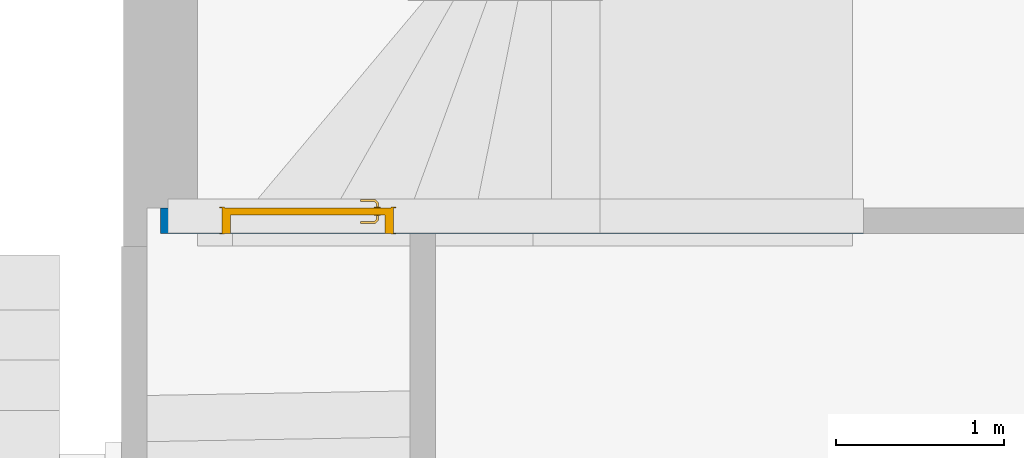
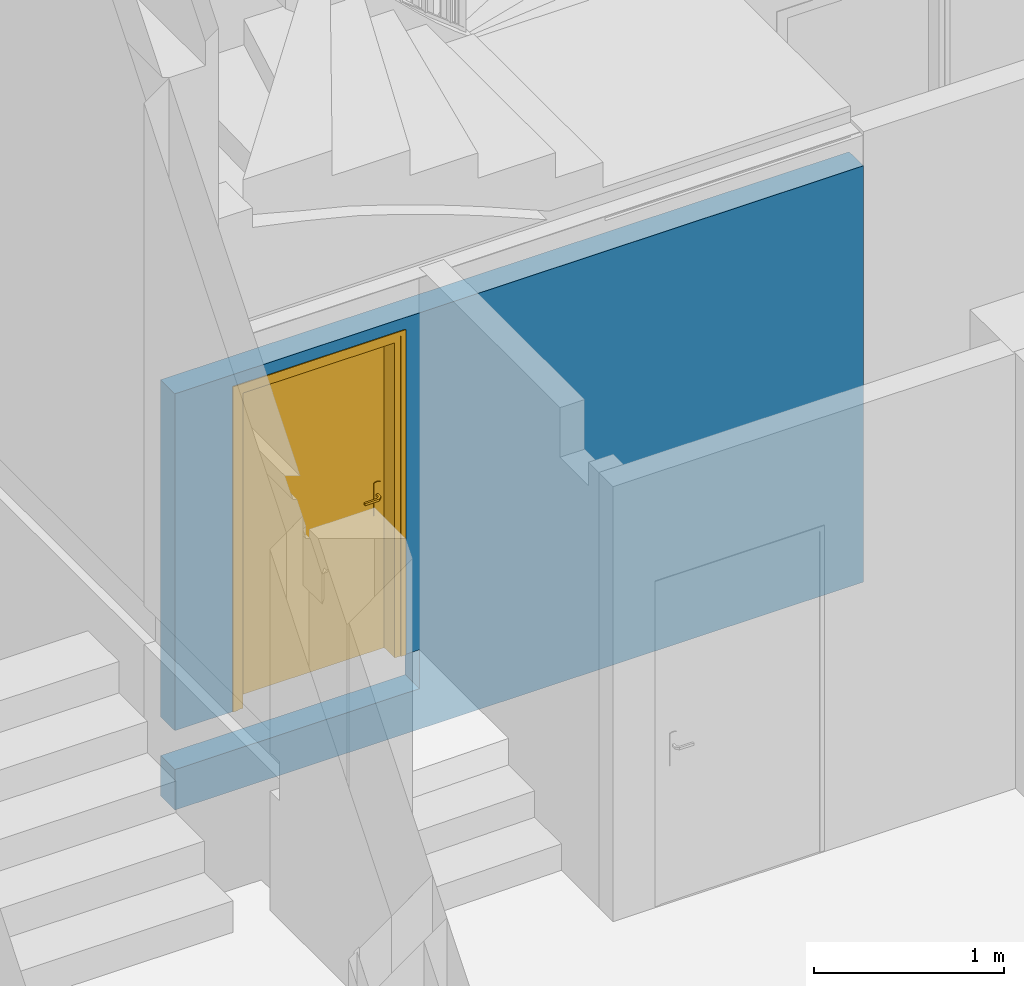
# One storey, part 12 of 39: 1 door, 1 wall, 1 opening.
"""IFC4 building model written with IfcOpenShell, lengths in metres."""

from ifc_helpers import new_model, entity, si_unit, converted_unit, derived_unit, direction, frame, origin, place, context, subcontext, project, spatial, indexed_curve, outline, extrude, polygons, source, transform, mapped, material, material_list, layer, layer_set, constituent, constituent_set, type_object, type_shapes, element, fill, save


model = new_model("IFC4")

# Units and contexts
model_context = context("Model", 3, precision=1e-05, world=origin(), true_north=direction((6.12303176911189e-17, 1.0)))
body_context = subcontext(model_context, "Body", "Model", "MODEL_VIEW")
ifc_project = project(units=[si_unit("LENGTHUNIT", "METRE"), si_unit("AREAUNIT", "SQUARE_METRE"), si_unit("VOLUMEUNIT", "CUBIC_METRE"), converted_unit("PLANEANGLEUNIT", "DEGREE", entity("IfcRatioMeasure", 0.0174532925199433), si_unit("PLANEANGLEUNIT", "RADIAN"), dimensions=[0, 0, 0, 0, 0, 0, 0]), si_unit("MASSUNIT", "GRAM", prefix="KILO"), derived_unit("MASSDENSITYUNIT", [(si_unit("MASSUNIT", "GRAM", prefix="KILO"), 1), (si_unit("LENGTHUNIT", "METRE"), -3)]), derived_unit("MOMENTOFINERTIAUNIT", [(si_unit("LENGTHUNIT", "METRE"), 4)]), si_unit("TIMEUNIT", "SECOND"), si_unit("FREQUENCYUNIT", "HERTZ"), si_unit("THERMODYNAMICTEMPERATUREUNIT", "DEGREE_CELSIUS"), derived_unit("THERMALTRANSMITTANCEUNIT", [(si_unit("MASSUNIT", "GRAM", prefix="KILO"), 1), (si_unit("THERMODYNAMICTEMPERATUREUNIT", "KELVIN"), -1), (si_unit("TIMEUNIT", "SECOND"), -3)]), derived_unit("VOLUMETRICFLOWRATEUNIT", [(si_unit("LENGTHUNIT", "METRE"), 3), (si_unit("TIMEUNIT", "SECOND"), -1)]), si_unit("ELECTRICCURRENTUNIT", "AMPERE"), si_unit("ELECTRICVOLTAGEUNIT", "VOLT"), si_unit("POWERUNIT", "WATT"), si_unit("FORCEUNIT", "NEWTON", prefix="KILO"), si_unit("ILLUMINANCEUNIT", "LUX"), si_unit("LUMINOUSFLUXUNIT", "LUMEN"), si_unit("LUMINOUSINTENSITYUNIT", "CANDELA"), derived_unit("USERDEFINED", [(si_unit("MASSUNIT", "GRAM", prefix="KILO"), -1), (si_unit("LENGTHUNIT", "METRE"), -2), (si_unit("TIMEUNIT", "SECOND"), 3), (si_unit("LUMINOUSFLUXUNIT", "LUMEN"), 1)]), derived_unit("LINEARVELOCITYUNIT", [(si_unit("LENGTHUNIT", "METRE"), 1), (si_unit("TIMEUNIT", "SECOND"), -1)]), si_unit("PRESSUREUNIT", "PASCAL"), derived_unit("USERDEFINED", [(si_unit("LENGTHUNIT", "METRE"), -2), (si_unit("MASSUNIT", "GRAM", prefix="KILO"), 1), (si_unit("TIMEUNIT", "SECOND"), -2)]), derived_unit("LINEARFORCEUNIT", [(si_unit("MASSUNIT", "GRAM", prefix="KILO"), 1), (si_unit("LENGTHUNIT", "METRE"), 1), (si_unit("TIMEUNIT", "SECOND"), -2), (si_unit("LENGTHUNIT", "METRE"), -1)]), derived_unit("PLANARFORCEUNIT", [(si_unit("MASSUNIT", "GRAM", prefix="KILO"), 1), (si_unit("LENGTHUNIT", "METRE"), 1), (si_unit("TIMEUNIT", "SECOND"), -2), (si_unit("LENGTHUNIT", "METRE"), -2)])], contexts=[model_context])

# Site, building, storey
site_placement = place(None, origin())
site = spatial("IfcSite", under=ifc_project, at=site_placement, Name="Default", CompositionType="ELEMENT")
building_placement = place(site_placement, origin())
building = spatial("IfcBuilding", under=site, at=building_placement, Name="HOTEL CONSULAIRE BOULOGNE SUR MER", CompositionType="ELEMENT")
storey_placement = place(building_placement, frame((0.0, 0.0, -5.02343668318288)))
storey = spatial("IfcBuildingStorey", under=building, at=storey_placement, Name="SS3", CompositionType="ELEMENT", Elevation=-5.02343668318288)

# Wall, opening, door
ifc_material_1 = material(Name="Mur par défaut", Category="Divers")
ifc_layer = layer(ifc_material_1, 0.15, Name="Mur par défaut", Category="Divers")
ifc_layer_set = layer_set([ifc_layer], Name="Mur de base:Générique - Int. 150 mm")
wall_type = type_object("IfcWallType", Name="Mur de base:Générique - Int. 150 mm", PredefinedType="NOTDEFINED", material=ifc_layer_set)
wall_placement = place(storey_placement, frame((-1.19442350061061, -13.743909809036, -0.43), z_axis=(0.0, 0.0, 1.0), x_axis=(-1.0, 0.0, 0.0)))
wall = element("IfcWall", 1, at=wall_placement, inside=storey, type_object=wall_type, material=ifc_layer_set, Name="Mur de base:Générique - Int. 150 mm", ObjectType="Mur de base:Générique - Int. 150 mm", PredefinedType="NOTDEFINED", context=body_context, shape_type="Tessellation", body=[
    polygons([(4.18534967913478, 0.0750000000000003, 2.675), (4.18534967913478, -0.0750000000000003, 2.675), (4.18534967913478, -0.0750000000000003, 0.51), (4.18534967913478, 0.0750000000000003, 0.51), (2.69873543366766, -0.0749999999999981, 0.51), (2.69873543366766, 0.0750000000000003, 0.51), (2.79956506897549, 0.0750000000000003, 0.51), (2.79956506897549, -0.0750000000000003, 0.51), (8.12349632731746e-16, -0.0750000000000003, 0.0), (4.18534967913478, -0.0750000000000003, 0.0), (4.18534967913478, -0.0750000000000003, 0.26), (2.69873543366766, -0.0750000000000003, 0.26), (2.79956506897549, -0.0750000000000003, 2.58500000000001), (3.81956506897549, -0.0750000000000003, 2.58500000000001), (3.81956506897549, -0.0750000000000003, 0.51), (2.7091606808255e-16, -0.0750000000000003, 2.675), (4.18534967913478, 0.0750000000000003, 0.0), (2.69873543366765, 0.0750000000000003, 0.0), (2.54873543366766, 0.0750000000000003, 0.0), (2.6721109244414e-16, 0.0750000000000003, 0.0), (8.08644657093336e-16, 0.0750000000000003, 2.675), (2.54873543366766, 0.0750000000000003, 2.675), (2.69873543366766, 0.0750000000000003, 2.675), (3.81956506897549, 0.0750000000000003, 0.51), (3.81956506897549, 0.0750000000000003, 2.58500000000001), (2.79956506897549, 0.0750000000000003, 2.58500000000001), (2.69873543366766, 0.0750000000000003, 0.26), (4.18534967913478, 0.0750000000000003, 0.26), (2.77348197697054e-16, 0.0722106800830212, 2.675)], [[[2, 3, 4, 1]], [[11, 10, 17, 28]], [[7, 26, 13, 8]], [[6, 5, 12, 27]], [[5, 6, 7, 8]], [[10, 9, 20, 19, 18, 17]], [[26, 25, 14, 13]], [[24, 4, 3, 15]], [[5, 8, 13, 14, 15, 3, 2, 16, 9, 10, 11, 12]], [[18, 19, 20, 21, 22, 23, 1, 4, 24, 25, 26, 7, 6, 27, 28, 17]], [[29, 16, 2, 1, 23, 22, 21]], [[11, 28, 27, 12]], [[9, 16, 29, 21, 20]], [[25, 24, 15, 14]]], closed=True),
])
opening_placement = place(wall_placement, frame((3.81956506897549, 0.0749999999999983, 0.51)))
opening = element("IfcOpeningElement", 2, at=opening_placement, cuts=wall, Name="Int. Simple:PP0.95x2.04 2:1", ObjectType="Opening", PredefinedType="OPENING", context=body_context, shape_type="SweptSolid", body=[
    extrude(outline(indexed_curve([(0.0, -2.2751631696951e-30), (2.07500000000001, -2.2751631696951e-30), (2.07500000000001, 1.02), (0.0, 1.02), (0.0, -2.2751631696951e-30)], self_intersect=False)), frame((0.0, 0.0, 0.0), z_axis=(0.0, -1.0, 0.0), x_axis=(0.0, 0.0, 1.0)), (0.0, 0.0, 1.0), 0.15),
])
ifc_material_2 = material(Name="Finition Peinture - Blanc satiné", Category="Peinture")
ifc_constituent_1 = constituent(ifc_material_2, Name="Finition Peinture - Blanc satiné", Category="Matériaux")
ifc_material_3 = material(Name="Bois - Panneau de porte", Category="Bois")
ifc_constituent_2 = constituent(ifc_material_3, Name="Bois - Panneau de porte", Category="Matériaux")
ifc_material_4 = material(Name="Bois - Cadre de porte", Category="Bois")
ifc_constituent_3 = constituent(ifc_material_4, Name="Bois - Cadre de porte", Category="Matériaux")
ifc_constituent_set = constituent_set(constituents=[ifc_constituent_1, ifc_constituent_2, ifc_constituent_3], Name="MaterialConstituentSet")
ifc_material_list = material_list([ifc_material_4, ifc_material_4, ifc_material_2, ifc_material_3])
door_type = type_object("IfcDoorType", Name="Int. Simple:PP0.95x2.04 2", OperationType="NOTDEFINED", PredefinedType="DOOR", material=ifc_material_list)
shared_shape = source(origin(), body_context, "Body", "Tessellation", [
    polygons([(0.0750000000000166, -0.00500000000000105, 0.870000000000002), (0.0846472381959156, -0.00500000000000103, 0.866003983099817), (0.0950000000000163, -0.00500000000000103, 0.86464101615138), (0.105352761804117, -0.00500000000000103, 0.866003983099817), (0.115000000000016, -0.00500000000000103, 0.870000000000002), (0.115000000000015, -0.00500000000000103, 1.08), (0.105352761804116, -0.00500000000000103, 1.08399601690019), (0.0950000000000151, -0.00500000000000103, 1.08535898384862), (0.0846472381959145, -0.00500000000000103, 1.08399601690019), (0.0750000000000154, -0.00500000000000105, 1.08), (0.0750000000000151, -1.04902753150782e-15, 0.870000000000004), (0.0750000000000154, -1.04902753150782e-15, 1.08), (0.0846472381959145, -1.04902753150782e-15, 1.08399601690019), (0.0950000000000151, -1.04056763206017e-15, 1.08535898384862), (0.105352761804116, -1.04056763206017e-15, 1.08399601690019), (0.115000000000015, -1.03210773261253e-15, 1.08), (0.115000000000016, -1.03210773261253e-15, 0.870000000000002), (0.105352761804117, -1.04056763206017e-15, 0.866003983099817), (0.0950000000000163, -1.04056763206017e-15, 0.86464101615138), (0.0846472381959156, -1.04902753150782e-15, 0.866003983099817)], [[[4, 5, 6, 7, 8, 9, 10, 1, 2, 3]], [[15, 16, 17, 18, 19, 20, 11, 12, 13, 14]], [[11, 20, 2, 1]], [[2, 20, 19, 3]], [[19, 18, 4, 3]], [[18, 17, 5, 4]], [[6, 5, 17, 16]], [[16, 15, 7, 6]], [[7, 15, 14, 8]], [[14, 13, 9, 8]], [[13, 12, 10, 9]], [[1, 10, 12, 11]]], closed=True),
    polygons([(0.115000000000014, 0.0399999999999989, 1.08), (0.105352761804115, 0.0399999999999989, 1.08399601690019), (0.0950000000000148, 0.0399999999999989, 1.08535898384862), (0.0846472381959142, 0.0399999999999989, 1.08399601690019), (0.0750000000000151, 0.0399999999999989, 1.08), (0.0750000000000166, 0.0399999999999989, 0.870000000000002), (0.0846472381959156, 0.0399999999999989, 0.866003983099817), (0.0950000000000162, 0.0399999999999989, 0.86464101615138), (0.105352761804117, 0.0399999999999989, 0.866003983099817), (0.115000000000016, 0.0399999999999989, 0.870000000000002), (0.115000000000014, 0.044999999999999, 1.08), (0.115000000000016, 0.044999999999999, 0.870000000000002), (0.105352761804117, 0.0449999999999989, 0.866003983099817), (0.0950000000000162, 0.0449999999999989, 0.86464101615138), (0.0846472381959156, 0.0449999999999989, 0.866003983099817), (0.075000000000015, 0.0449999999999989, 0.870000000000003), (0.0750000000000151, 0.0449999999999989, 1.08), (0.0846472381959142, 0.0449999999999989, 1.08399601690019), (0.0950000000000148, 0.0449999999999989, 1.08535898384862), (0.105352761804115, 0.0449999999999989, 1.08399601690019)], [[[9, 10, 1, 2, 3, 4, 5, 6, 7, 8]], [[20, 11, 12, 13, 14, 15, 16, 17, 18, 19]], [[11, 20, 2, 1]], [[2, 20, 19, 3]], [[19, 18, 4, 3]], [[18, 17, 5, 4]], [[6, 5, 17, 16]], [[16, 15, 7, 6]], [[7, 15, 14, 8]], [[14, 13, 9, 8]], [[13, 12, 10, 9]], [[1, 10, 12, 11]]], closed=True),
    polygons([(0.0889999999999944, -0.00500000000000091, 1.007), (0.0929747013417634, -0.00500000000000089, 1.00778044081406), (0.0970252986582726, -0.00500000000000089, 1.00778044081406), (0.101000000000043, -0.00500000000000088, 1.00699999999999), (0.101000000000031, -0.00500000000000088, 0.993000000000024), (0.0970252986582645, -0.00500000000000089, 0.992219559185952), (0.0929747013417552, -0.00500000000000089, 0.99221955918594), (0.0889999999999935, -0.00500000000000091, 0.992999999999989), (0.0889999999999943, -0.0326509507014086, 1.007), (0.0929747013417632, -0.0310045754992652, 1.00778044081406), (0.0970252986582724, -0.0293267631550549, 1.00778044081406), (0.101000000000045, -0.0276803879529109, 1.007), (0.101000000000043, -0.0276803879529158, 0.993000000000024), (0.0970252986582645, -0.0293267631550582, 0.992219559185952), (0.0929747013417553, -0.0310045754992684, 0.99221955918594), (0.0889999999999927, -0.0326509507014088, 0.992999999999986), (0.107377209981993, -0.051028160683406, 1.007), (0.109023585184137, -0.0470534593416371, 1.00778044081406), (0.110701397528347, -0.0430028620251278, 1.00778044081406), (0.112347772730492, -0.0390281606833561, 1.007), (0.112347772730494, -0.0390281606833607, 0.993000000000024), (0.110701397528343, -0.0430028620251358, 0.992219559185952), (0.109023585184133, -0.0470534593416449, 0.99221955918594), (0.107377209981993, -0.0510281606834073, 0.992999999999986), (0.195018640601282, -0.0510281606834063, 1.00699999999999), (0.195018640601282, -0.051028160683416, 0.992999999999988), (0.195018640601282, -0.0470534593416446, 0.99221955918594), (0.195018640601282, -0.0430028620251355, 0.992219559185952), (0.195018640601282, -0.0390281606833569, 0.993000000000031), (0.195018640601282, -0.0390281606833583, 1.007), (0.195018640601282, -0.0430028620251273, 1.00778044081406), (0.195018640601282, -0.0470534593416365, 1.00778044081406), (0.147307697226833, -0.0510281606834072, 1.007), (0.1528600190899, -0.045028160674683, 1.0078786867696), (0.153683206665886, -0.039028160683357, 1.007), (0.147307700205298, -0.0510281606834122, 0.992999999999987), (0.152860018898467, -0.0450281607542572, 0.992121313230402), (0.153683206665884, -0.0390281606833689, 0.993000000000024)], [[[2, 3, 4, 5, 6, 7, 8, 1]], [[21, 20, 35, 30, 29, 38]], [[9, 10, 2, 1]], [[10, 18, 19, 11, 3, 2]], [[11, 12, 4, 3]], [[5, 4, 12, 13]], [[26, 27, 28, 29, 30, 31, 32, 25]], [[13, 14, 6, 5]], [[14, 22, 23, 15, 7, 6]], [[15, 16, 8, 7]], [[1, 8, 16, 9]], [[17, 18, 10, 9]], [[19, 20, 12, 11]], [[13, 12, 20, 21]], [[21, 22, 14, 13]], [[23, 24, 16, 15]], [[9, 16, 24, 17]], [[33, 32, 34]], [[25, 32, 33]], [[18, 17, 33]], [[34, 35, 19]], [[20, 19, 35]], [[35, 31, 30]], [[32, 31, 34]], [[31, 35, 34]], [[18, 33, 34]], [[18, 34, 19]], [[38, 28, 37]], [[36, 37, 27]], [[21, 38, 22]], [[38, 29, 28]], [[26, 36, 27]], [[24, 23, 36]], [[36, 23, 37]], [[23, 22, 37]], [[22, 38, 37]], [[27, 37, 28]], [[17, 24, 36, 26, 25, 33]]], closed=True),
    polygons([(0.101000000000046, 0.0449999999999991, 0.993000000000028), (0.101000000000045, 0.0449999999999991, 1.007), (0.0970252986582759, 0.0449999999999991, 1.00778044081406), (0.0929747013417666, 0.0449999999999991, 1.00778044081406), (0.0889999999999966, 0.0449999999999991, 1.007), (0.0889999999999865, 0.0449999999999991, 0.992999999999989), (0.0929747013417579, 0.0449999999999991, 0.99221955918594), (0.0970252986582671, 0.0449999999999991, 0.992219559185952), (0.101000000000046, 0.067485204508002, 0.993000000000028), (0.101000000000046, 0.0674852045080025, 1.007), (0.0970252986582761, 0.0691315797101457, 1.00778044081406), (0.0929747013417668, 0.070809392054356, 1.00778044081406), (0.0889999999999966, 0.0724557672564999, 1.007), (0.0889999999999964, 0.0724557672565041, 0.992999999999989), (0.0929747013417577, 0.0708093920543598, 0.99221955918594), (0.0970252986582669, 0.0691315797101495, 0.992219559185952), (0.112485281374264, 0.0789704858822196, 0.993000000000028), (0.112485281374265, 0.0789704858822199, 1.007), (0.110838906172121, 0.0829451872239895, 1.00778044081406), (0.109161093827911, 0.0869957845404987, 1.00778044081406), (0.107514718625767, 0.090970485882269, 1.007), (0.10751471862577, 0.090970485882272, 0.992999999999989), (0.109161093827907, 0.0869957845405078, 0.99221955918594), (0.110838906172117, 0.0829451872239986, 0.992219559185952), (0.19504578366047, 0.0789704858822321, 0.993000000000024), (0.19504578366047, 0.0829451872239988, 0.992219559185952), (0.19504578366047, 0.086995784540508, 0.99221955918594), (0.19504578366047, 0.0909704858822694, 0.992999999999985), (0.19504578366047, 0.0909704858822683, 1.007), (0.19504578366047, 0.0869957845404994, 1.00778044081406), (0.19504578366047, 0.0829451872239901, 1.00778044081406), (0.19504578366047, 0.0789704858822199, 1.007), (0.147445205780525, 0.0909704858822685, 1.007), (0.15294234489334, 0.0849704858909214, 1.0078786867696), (0.153765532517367, 0.0789704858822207, 1.007), (0.147445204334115, 0.0909704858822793, 0.992999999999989), (0.152942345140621, 0.0849704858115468, 0.992121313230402), (0.153765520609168, 0.0789704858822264, 0.993000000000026)], [[[4, 5, 6, 7, 8, 1, 2, 3]], [[18, 17, 38, 25, 32, 35]], [[2, 1, 9, 10]], [[25, 26, 27, 28, 29, 30, 31, 32]], [[10, 11, 3, 2]], [[11, 19, 20, 12, 4, 3]], [[12, 13, 5, 4]], [[6, 5, 13, 14]], [[14, 15, 7, 6]], [[15, 23, 24, 16, 8, 7]], [[16, 9, 1, 8]], [[10, 9, 17, 18]], [[18, 19, 11, 10]], [[20, 21, 13, 12]], [[14, 13, 21, 22]], [[22, 23, 15, 14]], [[24, 17, 9, 16]], [[35, 31, 34]], [[33, 34, 30]], [[18, 35, 19]], [[35, 32, 31]], [[29, 33, 30]], [[21, 20, 33]], [[33, 20, 34]], [[20, 19, 34]], [[19, 35, 34]], [[30, 34, 31]], [[21, 33, 29, 28, 36, 22]], [[36, 27, 37]], [[28, 27, 36]], [[23, 22, 36]], [[37, 38, 24]], [[17, 24, 38]], [[38, 26, 25]], [[27, 26, 37]], [[26, 38, 37]], [[23, 36, 37]], [[23, 37, 24]]], closed=True),
    polygons([(0.0350000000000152, 0.04, 2.04), (0.985000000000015, 0.04, 2.04), (0.985000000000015, 0.04, 0.0), (0.0350000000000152, 0.04, 0.0), (0.0350000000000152, 5.07593966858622e-17, 2.04), (0.0350000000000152, 5.07593966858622e-17, 0.0), (0.985000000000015, 5.07593966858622e-17, 0.0), (0.985000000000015, 5.07593966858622e-17, 2.04)], [[[4, 1, 2, 3]], [[7, 8, 5, 6]], [[2, 1, 5, 8]], [[3, 2, 8, 7]], [[4, 3, 7, 6]], [[1, 4, 6, 5]]], closed=True),
    polygons([(2.70716782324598e-16, 1.69197988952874e-17, 0.0), (2.70716782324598e-16, 0.150000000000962, 0.0), (0.0500000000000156, 0.150000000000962, 0.0), (0.0500000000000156, 0.0400000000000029, 0.0), (0.0350000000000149, 0.0400000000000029, 0.0), (0.0350000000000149, 1.69197988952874e-17, 0.0), (2.70716782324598e-16, 1.69197988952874e-17, 2.07500000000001), (2.70716782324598e-16, 0.150000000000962, 2.07500000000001), (1.02, 0.150000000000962, 2.07500000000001), (1.02, 0.150000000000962, 0.0), (0.96999999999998, 0.150000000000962, -4.03399441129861e-24), (0.969999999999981, 0.150000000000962, 2.025), (0.0500000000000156, 0.150000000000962, 2.02499999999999), (0.0500000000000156, 0.0400000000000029, 2.02499999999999), (0.96999999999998, 0.0400000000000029, 2.02499999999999), (0.96999999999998, 0.0400000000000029, -1.38450562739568e-24), (0.984999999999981, 0.0400000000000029, -4.10371668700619e-24), (0.984999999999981, 0.0400000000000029, 2.04), (0.035000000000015, 0.0400000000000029, 2.04), (0.035000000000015, 1.69197988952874e-17, 2.04), (0.984999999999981, 1.69197988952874e-17, 2.04), (0.984999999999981, 1.69197988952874e-17, -8.70076159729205e-25), (1.02, 1.69197988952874e-17, 1.5819591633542e-24), (1.02, 1.69197988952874e-17, 2.07500000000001)], [[[5, 6, 1, 2, 3, 4]], [[11, 10, 23, 22, 17, 16]], [[14, 13, 12, 15]], [[20, 19, 18, 21]], [[2, 1, 7, 8]], [[15, 12, 11, 16]], [[21, 18, 17, 22]], [[3, 2, 8, 9, 10, 11, 12, 13]], [[4, 3, 13, 14]], [[6, 5, 19, 20]], [[9, 24, 23, 10]], [[16, 17, 18, 19, 5, 4, 14, 15]], [[22, 23, 24, 7, 1, 6, 20, 21]], [[8, 7, 24, 9]]], closed=True),
    polygons([(0.0150000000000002, 0.150000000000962, 0.0), (-0.0149999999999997, 0.150000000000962, 0.0), (-0.0149999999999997, 0.155000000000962, 0.0), (0.0150000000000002, 0.155000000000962, 0.0), (0.0150000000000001, 0.150000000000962, 2.06000000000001), (1.005, 0.150000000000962, 2.06000000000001), (1.005, 0.150000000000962, 7.44135206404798e-25), (1.035, 0.150000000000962, 3.21152985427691e-24), (1.035, 0.150000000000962, 2.09000000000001), (-0.0149999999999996, 0.150000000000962, 2.09000000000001), (-0.0149999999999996, 0.155000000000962, 2.09000000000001), (1.035, 0.155000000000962, 2.09000000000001), (1.035, 0.155000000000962, 4.82535527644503e-25), (1.005, 0.155000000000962, 5.65531304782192e-24), (1.005, 0.155000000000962, 2.06000000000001), (0.0150000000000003, 0.155000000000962, 2.06000000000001)], [[[1, 2, 3, 4]], [[14, 13, 8, 7]], [[5, 16, 15, 6]], [[7, 8, 9, 10, 2, 1, 5, 6]], [[3, 2, 10, 11]], [[6, 15, 14, 7]], [[4, 3, 11, 12, 13, 14, 15, 16]], [[1, 4, 16, 5]], [[12, 9, 8, 13]], [[11, 10, 9, 12]]], closed=True),
    polygons([(1.005, -0.00499999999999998, 0.0), (1.005, 1.69197988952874e-17, 0.0), (1.035, 1.69197988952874e-17, 0.0), (1.035, -0.00499999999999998, 0.0), (0.0150000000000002, -0.00499999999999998, 0.0), (-0.0149999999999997, -0.00499999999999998, 0.0), (-0.0149999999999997, 1.69197988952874e-17, 0.0), (0.0150000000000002, 1.69197988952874e-17, 0.0), (0.0150000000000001, -0.00499999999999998, 2.06000000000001), (1.005, -0.00499999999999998, 2.06000000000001), (1.035, -0.00499999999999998, 2.09000000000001), (-0.0149999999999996, -0.00499999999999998, 2.09000000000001), (-0.0149999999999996, 1.69197988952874e-17, 2.09000000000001), (1.035, 1.69197988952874e-17, 2.09000000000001), (1.005, 1.69197988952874e-17, 2.06000000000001), (0.0150000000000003, 1.69197988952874e-17, 2.06000000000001)], [[[2, 3, 4, 1]], [[6, 7, 8, 5]], [[9, 16, 15, 10]], [[1, 4, 11, 12, 6, 5, 9, 10]], [[7, 6, 12, 13]], [[10, 15, 2, 1]], [[8, 7, 13, 14, 3, 2, 15, 16]], [[5, 8, 16, 9]], [[14, 11, 4, 3]], [[13, 12, 11, 14]]], closed=True),
])
type_shapes(door_type, [shared_shape])
door_placement = place(opening_placement, frame((-1.02, -0.150000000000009, 0.0)))
door = element("IfcDoor", 3, at=door_placement, inside=storey, type_object=door_type, material=ifc_constituent_set, Name="Int. Simple:PP0.95x2.04 2", ObjectType="Int. Simple:PP0.95x2.04 2", OperationType="NOTDEFINED", OverallHeight=2.07500000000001, OverallWidth=1.02, PredefinedType="DOOR", context=body_context, shape_type="MappedRepresentation", body=[
    mapped(shared_shape, transform((0.0, 0.0, 0.0), scale=1.0)),
])
fill(opening, door)

save(model, "model.ifc")
